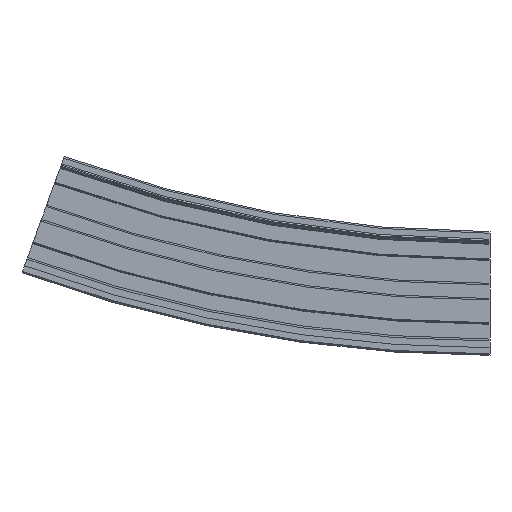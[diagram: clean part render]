
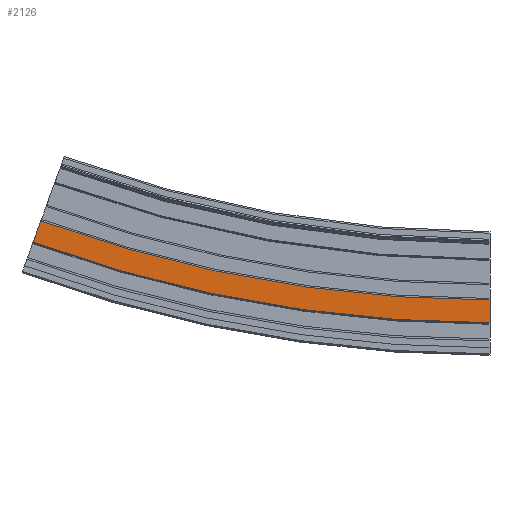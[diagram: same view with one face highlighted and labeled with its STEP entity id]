
A CAD part, left-side view. The second image highlights one B-rep face of the part: STEP entity #2126.
In plain terms, the highlighted planar face has unit normal (-1, 0, 0).
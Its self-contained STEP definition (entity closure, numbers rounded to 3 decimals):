
#214=CIRCLE('',#2314,865.5);
#215=CIRCLE('',#2316,880.5);
#325=FACE_OUTER_BOUND('',#443,.T.);
#443=EDGE_LOOP('',(#1725,#1726,#1727,#1728));
#593=LINE('',#8156,#771);
#594=LINE('',#8158,#772);
#771=VECTOR('',#2772,10.);
#772=VECTOR('',#2773,10.);
#983=VERTEX_POINT('',#8149);
#984=VERTEX_POINT('',#8151);
#985=VERTEX_POINT('',#8155);
#986=VERTEX_POINT('',#8157);
#1271=EDGE_CURVE('',#983,#984,#214,.T.);
#1272=EDGE_CURVE('',#985,#983,#593,.T.);
#1273=EDGE_CURVE('',#986,#984,#594,.T.);
#1274=EDGE_CURVE('',#985,#986,#215,.T.);
#1725=ORIENTED_EDGE('',*,*,#1272,.T.);
#1726=ORIENTED_EDGE('',*,*,#1271,.T.);
#1727=ORIENTED_EDGE('',*,*,#1273,.F.);
#1728=ORIENTED_EDGE('',*,*,#1274,.F.);
#2030=PLANE('',#2315);
#2126=ADVANCED_FACE('',(#325),#2030,.T.);
#2314=AXIS2_PLACEMENT_3D('',#8153,#2768,#2769);
#2315=AXIS2_PLACEMENT_3D('',#8154,#2770,#2771);
#2316=AXIS2_PLACEMENT_3D('',#8159,#2774,#2775);
#2768=DIRECTION('center_axis',(1.,0.,0.));
#2769=DIRECTION('ref_axis',(0.,0.,-1.));
#2770=DIRECTION('center_axis',(-1.,0.,0.));
#2771=DIRECTION('ref_axis',(0.,0.,1.));
#2772=DIRECTION('',(0.,0.,1.));
#2773=DIRECTION('',(0.,-0.342,0.94));
#2774=DIRECTION('center_axis',(1.,0.,0.));
#2775=DIRECTION('ref_axis',(0.,0.,
-1.));
#8149=CARTESIAN_POINT('',(-112.,0.,-5.5));
#8151=CARTESIAN_POINT('',(-112.,296.018,46.696));
#8153=CARTESIAN_POINT('Origin',(-112.,0.,
860.));
#8154=CARTESIAN_POINT('Origin',(-112.,0.,-20.5));
#8155=CARTESIAN_POINT('',(-112.,0.,-20.5));
#8156=CARTESIAN_POINT('',(-112.,0.,-20.5));
#8157=CARTESIAN_POINT('',(-112.,301.149,32.601));
#8158=CARTESIAN_POINT('',(-112.,301.149,32.601));
#8159=CARTESIAN_POINT('Origin',(-112.,0.,
860.));
